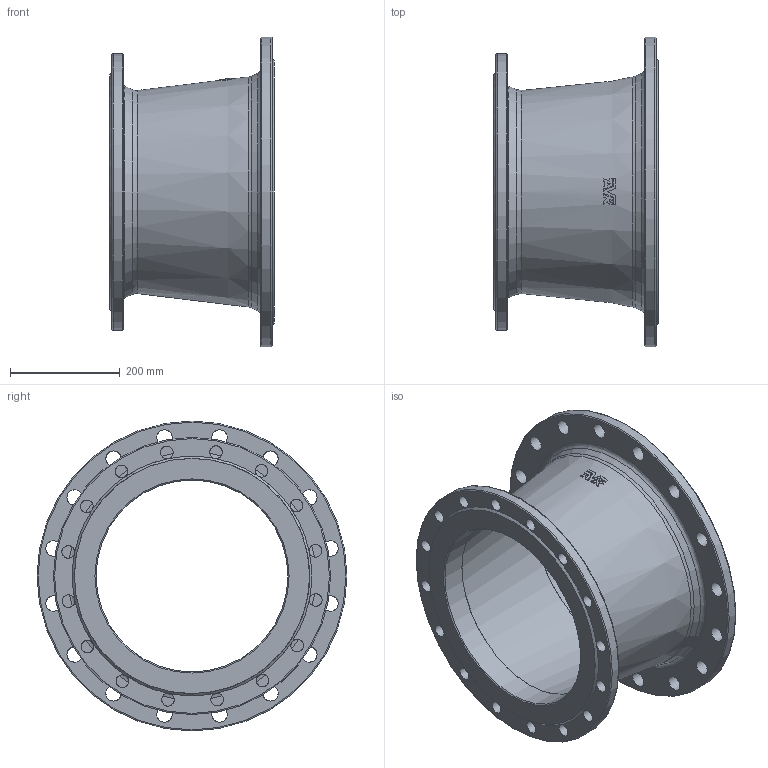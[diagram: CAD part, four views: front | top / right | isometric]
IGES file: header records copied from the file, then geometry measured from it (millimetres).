
Start section: SolidWorks IGES file using analytic representation for surfaces
Global section: file name: \\avksan2\techshare\PBM outline export from Enovia\O_712_2210_DN400_DN350_0X_REV01.igs; native system: SolidWorks 2022; preprocessor: SolidWorks 2022; author: pbm; date: 240808.083955; units: millimetre
Bounding box: 300 x 565 x 565 mm (x, y, z)
Surface area: 1166910.8 mm2 (no closed solid volume)
Topology: 0 solids, 0 shells, 117 faces, 624 edges, 554 vertices
Faces by surface type: revolution 60, bspline 57
